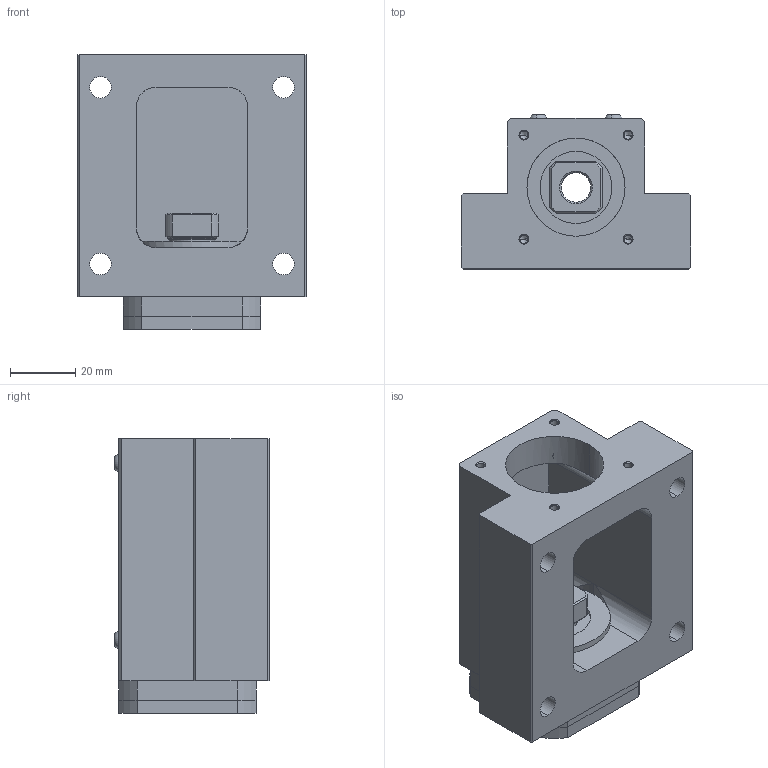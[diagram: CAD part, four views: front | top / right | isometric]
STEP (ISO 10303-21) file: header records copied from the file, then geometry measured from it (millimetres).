
FILE_DESCRIPTION (( 'STEP AP214' ), '1' );
FILE_NAME ('C-SBU-10-38.3.STEP', '2023-04-10T03:23:56', ( '' ), ( '' ), 'SwSTEP 2.0', 'SolidWorks 2021', '' );
FILE_SCHEMA (( 'AUTOMOTIVE_DESIGN' ));
Length unit declared in the file: millimetre
Products named in the file (6): FK10B; C-SBU-10-38.3; SBU-10,12 ACRYLE; M3-6; socket head cap screw_ks_KS 1003 - M4 x 12 x 12-N; SJU-10-M38 HOUSING
Assembly tree (11 placements, depth 2):
  C-SBU-10-38.3
    SJU-10-M38 HOUSING
    FK10B
    socket head cap screw_ks_KS 1003 - M4 x 12 x 12-N  x4
    SBU-10,12 ACRYLE
    M3-6  x4
Bounding box: 70 x 47.15 x 84 mm (x, y, z)
Volume: 120957.6 mm3; surface area: 50270.8 mm2
Topology: 12 solids, 16 shells, 678 faces, 1602 edges, 951 vertices
Faces by surface type: plane 263, cylinder 203, cone 148, torus 64
Entity records: 15730 total; most frequent: CARTESIAN_POINT 2959, DIRECTION 2783, ORIENTED_EDGE 2400, EDGE_CURVE 1200, AXIS2_PLACEMENT_3D 1103, VERTEX_POINT 741, EDGE_LOOP 603, CIRCLE 579
